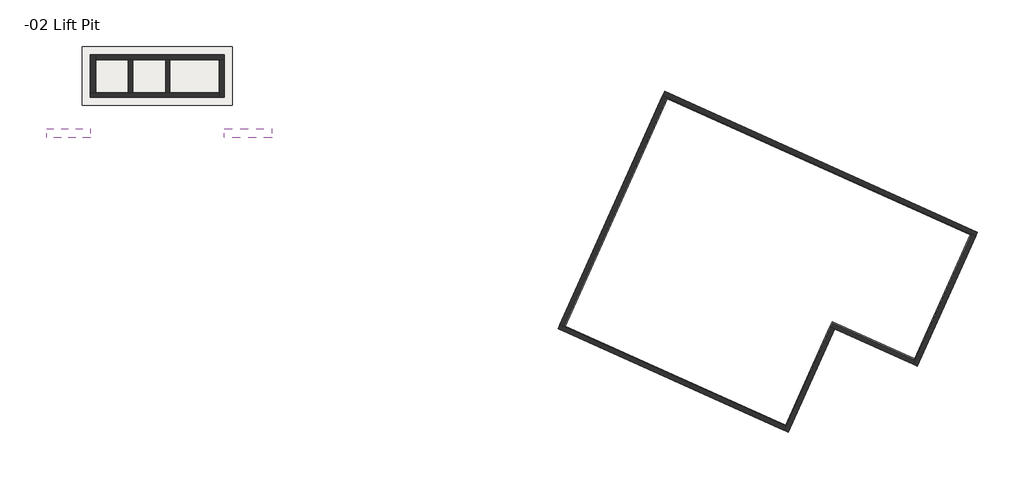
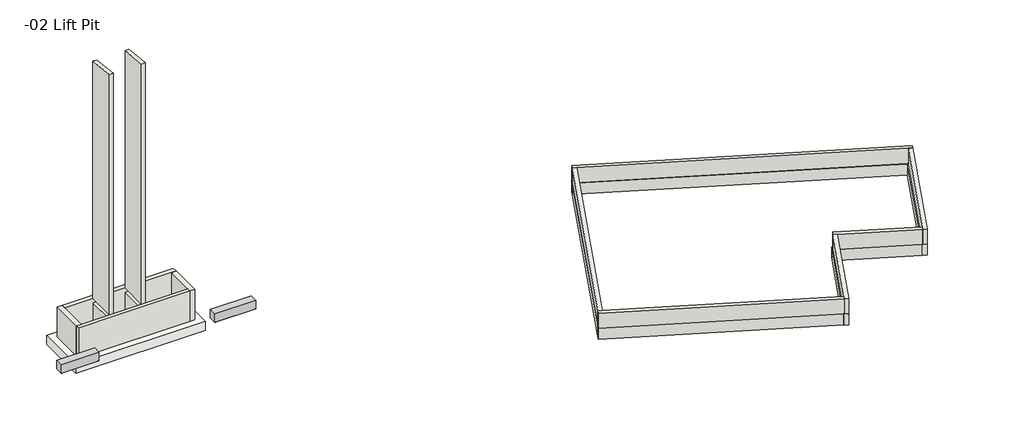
# One storey: 18 walls, 2 beams, 1 slab.
"""IFC4 building model written with IfcOpenShell, lengths in millimetres."""

from ifc_helpers import new_model, si_unit, frame, origin, place, context, project, spatial, polyline, outline, extrude, faceted_brep, element, save

model = new_model("IFC4")

# Units and contexts
model_context = context("Model", 3, world=origin())
ifc_project = project(units=[si_unit("LENGTHUNIT", "METRE", prefix="MILLI")], contexts=[model_context])

# Site, building, storey
site = spatial("IfcSite", under=ifc_project)
building = spatial("IfcBuilding", under=site)
storey = spatial("IfcBuildingStorey", under=building, Name="-02 Lift Pit", Elevation=-2133.6)

# Beams
placement = place(None, origin())
element("IfcBeam", 1, ObjectType="Ring Beam : 12 x 24", at=placement, inside=storey, context=model_context, shape_type="SweptSolid", body=[
    extrude(outline(polyline([(-7759.7, -304.8), (-7251.7, -304.8), (-7251.7, -889.0), (-7277.1, -914.4), (-7734.3, -914.4), (-7759.7, -889.0), (-7759.7, -304.8)])), frame((18249.9, 0.0, 0.0), z_axis=(1.0, 0.0, 0.0), x_axis=(0.0, 1.0, 0.0)), (0.0, 0.0, 1.0), 2717.8),
])
element("IfcBeam", 2, ObjectType="Ring Beam : 12 x 24", at=placement, inside=storey, context=model_context, shape_type="SweptSolid", body=[
    extrude(outline(polyline([(-7759.7, -889.0), (-7759.7, -304.8), (-7251.7, -304.8), (-7251.7, -889.0), (-7277.1, -914.4), (-7734.3, -914.4), (-7759.7, -889.0)])), frame((8051.8, 0.0, 0.0), z_axis=(1.0, 0.0, 0.0), x_axis=(0.0, 1.0, 0.0)), (0.0, 0.0, 1.0), 2501.9),
])

# Slab
element("IfcSlab", 3, ObjectType="24\" Foundation Slab", at=placement, inside=storey, context=model_context, shape_type="SweptSolid", body=[
    extrude(outline(polyline([(10096.5, -5880.1), (10096.5, -2527.3), (18707.1, -2527.3), (18707.1, -5880.1), (10096.5, -5880.1)])), frame((0.0, 0.0, -2743.2), z_axis=(0.0, 0.0, 1.0), x_axis=(1.0, 0.0, 0.0)), (0.0, 0.0, 1.0), 609.6),
])

# Walls
element("IfcWall", 4, ObjectType="RC Wall 10\"", at=placement, inside=storey, context=model_context, shape_type="SweptSolid", body=[
    extrude(outline(polyline([(12992.1, -3289.3), (12992.1, -5168.9), (12738.1, -5168.9), (12738.1, -3289.3), (12992.1, -3289.3)])), frame((0.0, 0.0, -2133.6), z_axis=(0.0, 0.0, 1.0), x_axis=(1.0, 0.0, 0.0)), (0.0, 0.0, 1.0), 1828.8),
    extrude(outline(polyline([(-5168.9, 16872.3860006), (-3289.3, 16674.83208), (-3289.3, 0.0), (-5168.9, 0.0), (-5168.9, 16872.3860006)])), frame((12738.1, 0.0, 0.0), z_axis=(1.0, 0.0, 0.0), x_axis=(0.0, 1.0, 0.0)), (0.0, 0.0, 1.0), 254.0),
])
element("IfcWall", 5, ObjectType="RC Wall 10\"", at=placement, inside=storey, context=model_context, shape_type="SweptSolid", body=[
    extrude(outline(polyline([(15125.7, -3289.3), (15125.7, -5168.9), (14871.7, -5168.9), (14871.7, -3289.3), (15125.7, -3289.3)])), frame((0.0, 0.0, -2133.6), z_axis=(0.0, 0.0, 1.0), x_axis=(1.0, 0.0, 0.0)), (0.0, 0.0, 1.0), 1828.8),
    extrude(outline(polyline([(-5168.9, 16872.3860006), (-3289.3, 16674.83208), (-3289.3, 0.0), (-5168.9, 0.0), (-5168.9, 16872.3860006)])), frame((14871.7, 0.0, 0.0), z_axis=(1.0, 0.0, 0.0), x_axis=(0.0, 1.0, 0.0)), (0.0, 0.0, 1.0), 254.0),
])
element("IfcWall", 6, ObjectType="RC Wall 10\"", at=placement, inside=storey, context=model_context, shape_type="Brep", body=[
    faceted_brep([(10553.7, -5422.9, -2133.6), (17945.1, -5422.9, -2133.6), (17945.1, -5422.9, 0.0), (10553.7, -5422.9, 0.0), (10553.7, -5422.9, -304.8), (10553.7, -5422.9, -914.4), (10553.7, -5168.9, -2133.6), (10553.7, -5168.9, 0.0), (10858.5, -5168.9, 0.0), (17945.1, -5168.9, 0.0), (17945.1, -5168.9, -304.8), (17945.1, -5168.9, -2133.6), (15125.7, -5168.9, -2133.6), (14871.7, -5168.9, -2133.6), (12992.1, -5168.9, -2133.6), (12738.1, -5168.9, -2133.6), (10858.5, -5168.9, -2133.6)], [[[0, 1, 2, 3, 4, 5]], [[6, 7, 8, 9, 10, 11, 12, 13, 14, 15, 16]], [[1, 0, 6, 16, 15, 14, 13, 12, 11]], [[3, 2, 9, 8, 7]], [[0, 5, 4, 3, 7, 6]], [[2, 1, 11, 10, 9]]]),
])
element("IfcWall", 7, ObjectType="RC Wall 10\"", at=placement, inside=storey, context=model_context, shape_type="Brep", body=[
    faceted_brep([(43375.5853595, -5335.982439, -1371.6), (43607.2829205, -5440.0604878, -1371.6), (61077.2790181, -13287.5453659, -1371.6), (61308.976579, -13391.6234146, -1371.6), (61308.976579, -13391.6234146, -304.8), (61077.2790181, -13287.5453659, -304.8), (43607.2829205, -5440.0604878, -304.8), (43375.5853595, -5335.982439, -304.8), (43479.6634083, -5104.284878, -1371.6), (43479.6634083, -5104.284878, -1193.8), (43479.6634083, -5104.284878, -304.8), (61413.0546278, -13159.9258537, -304.8), (61413.0546278, -13159.9258537, -1371.6)], [[[0, 1, 2, 3, 4, 5, 6, 7]], [[8, 9, 10, 11, 12]], [[3, 2, 1, 0, 8, 12]], [[7, 6, 5, 4, 11, 10]], [[4, 3, 12, 11]], [[0, 7, 10, 9, 8]]]),
])
element("IfcWall", 8, ObjectType="RC Wall 10\"", at=placement, inside=storey, context=model_context, shape_type="Brep", body=[
    faceted_brep([(61077.2790181, -13287.5453659, -1371.6), (57835.2477985, -20504.9243902, -1371.6), (57731.1697498, -20736.6219512, -1371.6), (57731.1697498, -20736.6219512, -304.8), (57835.2477985, -20504.9243902, -304.8), (61077.2790181, -13287.5453659, -304.8), (61308.976579, -13391.6234146, -1371.6), (61308.976579, -13391.6234146, -304.8), (57962.8673107, -20840.7, -304.8), (57962.8673107, -20840.7, -1371.6), (61288.1609693, -13437.9629268, -1371.6)], [[[0, 1, 2, 3, 4, 5]], [[6, 7, 8, 9, 10]], [[2, 1, 0, 6, 10, 9]], [[5, 4, 3, 8, 7]], [[0, 5, 7, 6]], [[3, 2, 9, 8]]]),
])
element("IfcWall", 9, ObjectType="RC Wall 10\"", at=placement, inside=storey, context=model_context, shape_type="Brep", body=[
    faceted_brep([(57835.2477985, -20504.9243902, -1371.6), (53108.6175546, -18381.7321951, -1371.6), (53108.6175546, -18381.7321951, -304.8), (57835.2477985, -20504.9243902, -304.8), (57731.1697498, -20736.6219512, -1371.6), (57731.1697498, -20736.6219512, -304.8), (53236.2370668, -18717.5078049, -304.8), (53004.5395059, -18613.4297561, -304.8), (53004.5395059, -18613.4297561, -1371.6), (53236.2370668, -18717.5078049, -1371.6), (57684.8302376, -20715.8063415, -1371.6)], [[[0, 1, 2, 3]], [[4, 5, 6, 7, 8, 9, 10]], [[1, 0, 4, 10, 9, 8]], [[3, 2, 7, 6, 5]], [[0, 3, 5, 4]], [[2, 1, 8, 7]]]),
])
element("IfcWall", 10, ObjectType="RC Wall 10\"", at=placement, inside=storey, context=model_context, shape_type="Brep", body=[
    faceted_brep([(53004.5395059, -18613.4297561, -1371.6), (50449.4234083, -24301.604878, -1371.6), (50345.3453595, -24533.302439, -1371.6), (50345.3453595, -24533.302439, -304.8), (50449.4234083, -24301.604878, -304.8), (53004.5395059, -18613.4297561, -304.8), (53236.2370668, -18717.5078049, -1371.6), (53236.2370668, -18717.5078049, -304.8), (50577.0429205, -24637.3804878, -304.8), (50577.0429205, -24637.3804878, -1371.6)], [[[0, 1, 2, 3, 4, 5]], [[6, 7, 8, 9]], [[2, 1, 0, 6, 9]], [[5, 4, 3, 8, 7]], [[0, 5, 7, 6]], [[3, 2, 9, 8]]]),
])
element("IfcWall", 11, ObjectType="RC Wall 10\"", at=placement, inside=storey, context=model_context, shape_type="Brep", body=[
    faceted_brep([(50449.4234083, -24301.604878, -1371.6), (37706.0575546, -18577.3121951, -1371.6), (37474.3599937, -18473.2341463, -1371.6), (37474.3599937, -18473.2341463, -304.8), (37706.0575546, -18577.3121951, -304.8), (50449.4234083, -24301.604878, -304.8), (50345.3453595, -24533.302439, -1371.6), (50345.3453595, -24533.302439, -304.8), (37370.2819449, -18704.9317073, -304.8), (37370.2819449, -18704.9317073, -1193.8), (37370.2819449, -18704.9317073, -1371.6), (50299.0058473, -24512.4868293, -1371.6)], [[[0, 1, 2, 3, 4, 5]], [[6, 7, 8, 9, 10, 11]], [[2, 1, 0, 6, 11, 10]], [[5, 4, 3, 8, 7]], [[0, 5, 7, 6]], [[3, 2, 10, 9, 8]]]),
])
element("IfcWall", 12, ObjectType="RC Wall 10\"", at=placement, inside=storey, context=model_context, shape_type="Brep", body=[
    faceted_brep([(37706.0575546, -18577.3121951, -1371.6), (43607.2829205, -5440.0604878, -1371.6), (43607.2829205, -5440.0604878, -304.8), (37706.0575546, -18577.3121951, -304.8), (37474.3599937, -18473.2341463, -1371.6), (37474.3599937, -18473.2341463, -304.8), (43375.5853595, -5335.982439, -304.8), (43375.5853595, -5335.982439, -1371.6), (43354.7697498, -5382.3219512, -1371.6), (37495.1756034, -18426.8946341, -1371.6)], [[[0, 1, 2, 3]], [[4, 5, 6, 7, 8, 9]], [[1, 0, 4, 9, 8, 7]], [[3, 2, 6, 5]], [[2, 1, 7, 6]], [[0, 3, 5, 4]]]),
])
element("IfcWall", 13, ObjectType="RC Wall 12\"", at=placement, inside=storey, context=model_context, shape_type="Brep", body=[
    faceted_brep([(10553.7, -2984.5, -2133.6), (10553.7, -5168.9, -2133.6), (10553.7, -5168.9, 0.0), (10553.7, -2984.5, 0.0), (10553.7, -2984.5, -304.8), (10858.5, -2984.5, -2133.6), (10858.5, -2984.5, 0.0), (10858.5, -3289.3, 0.0), (10858.5, -5168.9, 0.0), (10858.5, -5168.9, -304.8), (10858.5, -5168.9, -2133.6), (10858.5, -3289.3, -2133.6)], [[[0, 1, 2, 3, 4]], [[5, 6, 7, 8, 9, 10, 11]], [[1, 0, 5, 11, 10]], [[3, 2, 8, 7, 6]], [[0, 4, 3, 6, 5]], [[2, 1, 10, 9, 8]]]),
])
element("IfcWall", 14, ObjectType="RC Wall 12\"", at=placement, inside=storey, context=model_context, shape_type="Brep", body=[
    faceted_brep([(18249.9, -2984.5, -2133.6), (10858.5, -2984.5, -2133.6), (10858.5, -2984.5, 0.0), (18249.9, -2984.5, 0.0), (18249.9, -2984.5, -304.8), (18249.9, -3289.3, -2133.6), (18249.9, -3289.3, 0.0), (17945.1, -3289.3, 0.0), (10858.5, -3289.3, 0.0), (10858.5, -3289.3, -304.8), (10858.5, -3289.3, -2133.6), (12738.1, -3289.3, -2133.6), (12992.1, -3289.3, -2133.6), (14871.7, -3289.3, -2133.6), (15125.7, -3289.3, -2133.6), (17945.1, -3289.3, -2133.6)], [[[0, 1, 2, 3, 4]], [[5, 6, 7, 8, 9, 10, 11, 12, 13, 14, 15]], [[1, 0, 5, 15, 14, 13, 12, 11, 10]], [[3, 2, 8, 7, 6]], [[0, 4, 3, 6, 5]], [[2, 1, 10, 9, 8]]]),
])
element("IfcWall", 15, ObjectType="RC Wall 12\"", at=placement, inside=storey, context=model_context, shape_type="Brep", body=[
    faceted_brep([(18249.9, -5422.9, -2133.6), (18249.9, -3289.3, -2133.6), (18249.9, -3289.3, 0.0), (18249.9, -5422.9, 0.0), (18249.9, -5422.9, -304.8), (17945.1, -5422.9, -2133.6), (17945.1, -5422.9, 0.0), (17945.1, -5168.9, 0.0), (17945.1, -3289.3, 0.0), (17945.1, -3289.3, -304.8), (17945.1, -3289.3, -2133.6), (17945.1, -5168.9, -2133.6)], [[[0, 1, 2, 3, 4]], [[5, 6, 7, 8, 9, 10, 11]], [[1, 0, 5, 11, 10]], [[3, 2, 8, 7, 6]], [[0, 4, 3, 6, 5]], [[2, 1, 10, 9, 8]]]),
])
element("IfcWall", 16, ObjectType="RC Wall 12\"", at=placement, inside=storey, context=model_context, shape_type="Brep", body=[
    faceted_brep([(43354.7697498, -5382.3219512, -2133.6), (43632.8068229, -5507.2156098, -2133.6), (61010.1238961, -13313.0692683, -2133.6), (61288.1609693, -13437.9629268, -2133.6), (61288.1609693, -13437.9629268, -1371.6), (61010.1238961, -13313.0692683, -1371.6), (43632.8068229, -5507.2156098, -1371.6), (43354.7697498, -5382.3219512, -1371.6), (43479.6634083, -5104.284878, -2133.6), (43479.6634083, -5104.284878, -1371.6), (61413.0546278, -13159.9258537, -1371.6), (61413.0546278, -13159.9258537, -2133.6), (61308.976579, -13391.6234146, -1371.6), (43375.5853595, -5335.982439, -1371.6)], [[[0, 1, 2, 3, 4, 5, 6, 7]], [[8, 9, 10, 11]], [[3, 2, 1, 0, 8, 11]], [[7, 6, 5, 4, 12, 10, 9, 13]], [[4, 3, 11, 10, 12]], [[0, 7, 13, 9, 8]]]),
])
element("IfcWall", 17, ObjectType="RC Wall 12\"", at=placement, inside=storey, context=model_context, shape_type="Brep", body=[
    faceted_brep([(61010.1238961, -13313.0692683, -2133.6), (57809.7238961, -20437.7692683, -2133.6), (57684.8302376, -20715.8063415, -2133.6), (57684.8302376, -20715.8063415, -1371.6), (57809.7238961, -20437.7692683, -1371.6), (61010.1238961, -13313.0692683, -1371.6), (61288.1609693, -13437.9629268, -2133.6), (61288.1609693, -13437.9629268, -1371.6), (57962.8673107, -20840.7, -1371.6), (57962.8673107, -20840.7, -2133.6), (57731.1697498, -20736.6219512, -1371.6)], [[[0, 1, 2, 3, 4, 5]], [[6, 7, 8, 9]], [[2, 1, 0, 6, 9]], [[5, 4, 3, 10, 8, 7]], [[0, 5, 7, 6]], [[3, 2, 9, 8, 10]]]),
])
element("IfcWall", 18, ObjectType="RC Wall 12\"", at=placement, inside=storey, context=model_context, shape_type="Brep", body=[
    faceted_brep([(57809.7238961, -20437.7692683, -2133.6), (53083.0936522, -18314.5770732, -2133.6), (53083.0936522, -18314.5770732, -1371.6), (57809.7238961, -20437.7692683, -1371.6), (57684.8302376, -20715.8063415, -2133.6), (57684.8302376, -20715.8063415, -1371.6), (53236.2370668, -18717.5078049, -1371.6), (53004.5395059, -18613.4297561, -1371.6), (52958.1999937, -18592.6141463, -1371.6), (52958.1999937, -18592.6141463, -2133.6), (53236.2370668, -18717.5078049, -2133.6)], [[[0, 1, 2, 3]], [[4, 5, 6, 7, 8, 9, 10]], [[1, 0, 4, 10, 9]], [[3, 2, 8, 7, 6, 5]], [[0, 3, 5, 4]], [[2, 1, 9, 8]]]),
])
element("IfcWall", 19, ObjectType="RC Wall 12\"", at=placement, inside=storey, context=model_context, shape_type="Brep", body=[
    faceted_brep([(52958.1999937, -18592.6141463, -2133.6), (50423.8995059, -24234.4497561, -2133.6), (50299.0058473, -24512.4868293, -2133.6), (50299.0058473, -24512.4868293, -1371.6), (50423.8995059, -24234.4497561, -1371.6), (52958.1999937, -18592.6141463, -1371.6), (53236.2370668, -18717.5078049, -2133.6), (53236.2370668, -18717.5078049, -1371.6), (50577.0429205, -24637.3804878, -1371.6), (50577.0429205, -24637.3804878, -2133.6), (50345.3453595, -24533.302439, -1371.6), (53004.5395059, -18613.4297561, -1371.6)], [[[0, 1, 2, 3, 4, 5]], [[6, 7, 8, 9]], [[2, 1, 0, 6, 9]], [[5, 4, 3, 10, 8, 7, 11]], [[0, 5, 11, 7, 6]], [[3, 2, 9, 8, 10]]]),
])
element("IfcWall", 20, ObjectType="RC Wall 12\"", at=placement, inside=storey, context=model_context, shape_type="Brep", body=[
    faceted_brep([(50423.8995059, -24234.4497561, -2133.6), (37773.2126766, -18551.7882927, -2133.6), (37495.1756034, -18426.8946341, -2133.6), (37495.1756034, -18426.8946341, -1371.6), (37773.2126766, -18551.7882927, -1371.6), (50423.8995059, -24234.4497561, -1371.6), (50299.0058473, -24512.4868293, -2133.6), (50299.0058473, -24512.4868293, -1371.6), (37370.2819449, -18704.9317073, -1371.6), (37370.2819449, -18704.9317073, -2133.6), (37474.3599937, -18473.2341463, -1371.6)], [[[0, 1, 2, 3, 4, 5]], [[6, 7, 8, 9]], [[2, 1, 0, 6, 9]], [[5, 4, 3, 10, 8, 7]], [[0, 5, 7, 6]], [[3, 2, 9, 8, 10]]]),
])
element("IfcWall", 21, ObjectType="RC Wall 12\"", at=placement, inside=storey, context=model_context, shape_type="SweptSolid", body=[
    extrude(outline(polyline([(43632.8068229, -5507.2156098), (37773.2126766, -18551.7882927), (37495.1756034, -18426.8946341), (43354.7697498, -5382.3219512), (43632.8068229, -5507.2156098)])), frame((0.0, 0.0, -2133.6), z_axis=(0.0, 0.0, 1.0), x_axis=(1.0, 0.0, 0.0)), (0.0, 0.0, 1.0), 762.0),
])

save(model, "model.ifc")
